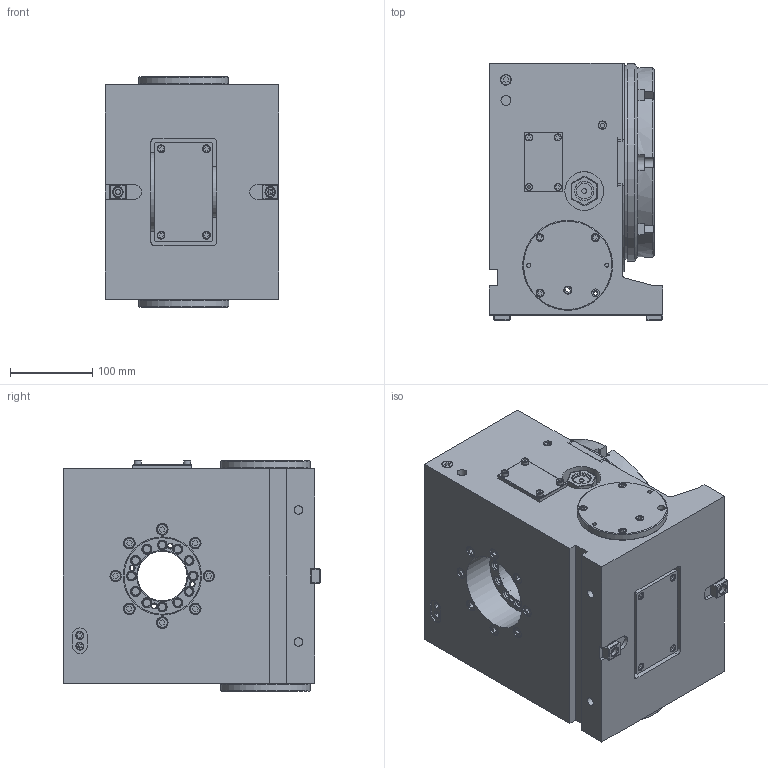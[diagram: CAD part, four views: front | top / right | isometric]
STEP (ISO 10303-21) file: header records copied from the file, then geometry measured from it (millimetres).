
FILE_DESCRIPTION (( 'STEP AP203' ), '1' );
FILE_NAME ('15091596.STEP', '2021-09-02T03:02:34', ( '' ), ( '' ), 'SwSTEP 2.0', 'SolidWorks 2021', '' );
FILE_SCHEMA (( 'CONFIG_CONTROL_DESIGN' ));
Length unit declared in the file: millimetre
Products named in the file (1): 15091596
Bounding box: 210 x 312 x 280 mm (x, y, z)
Surface area: 555341.3 mm2 (no closed solid volume)
Topology: 0 solids, 60 shells, 753 faces, 2079 edges, 1385 vertices
Faces by surface type: plane 484, cylinder 157, cone 104, torus 8
Full cylindrical faces by diameter (mm): 5 x5, 6 x7, 6.5 x2, 6.8 x12, 8.5 x4, 8.72 x1, 9 x12, 9.5 x12, 10 x18, 10.2 x2, 11 x14, 12 x14, 14 x8, 16 x1, 19 x1, 23 x1, 47 x1, 60 x1, 62 x2, 95 x2, 96 x1, 109 x2, 230 x1, 235 x1, 240 x1
Entity records: 22674 total; most frequent: CARTESIAN_POINT 4157, DIRECTION 3871, ORIENTED_EDGE 3123, EDGE_CURVE 1836, VERTEX_POINT 1359, AXIS2_PLACEMENT_3D 1327, VECTOR 1217, LINE 1217
